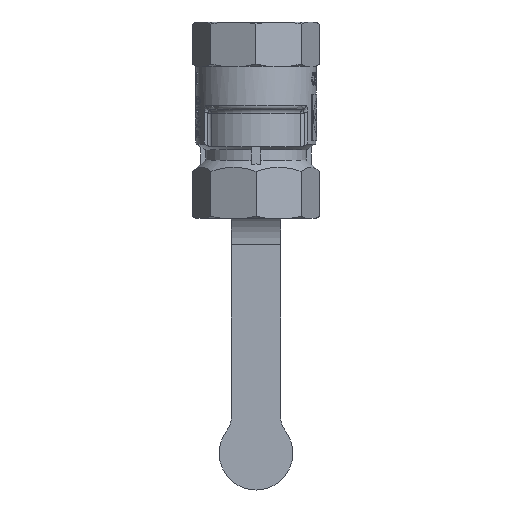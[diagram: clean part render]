
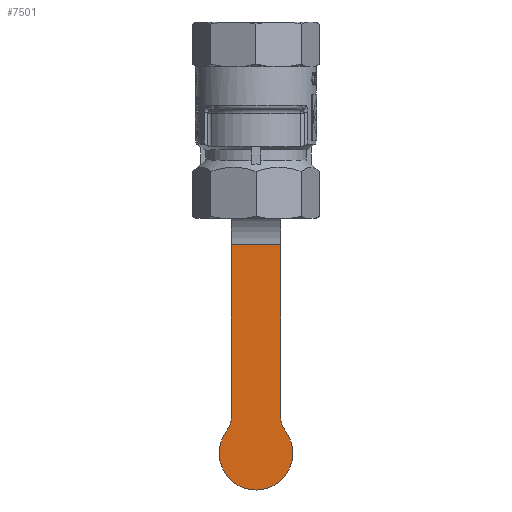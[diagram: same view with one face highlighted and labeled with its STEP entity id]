
A CAD part, front view. The second image highlights one B-rep face of the part: STEP entity #7501.
In plain terms, the highlighted planar face has unit normal (0, -1, 0).
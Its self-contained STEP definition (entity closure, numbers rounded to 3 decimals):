
#387=PLANE('',#8088);
#875=FACE_OUTER_BOUND('',#1342,.T.);
#1342=EDGE_LOOP('',(#6573,#6574,#6575,#6576,#6577,#6578));
#1880=LINE('',#19548,#2391);
#1890=LINE('',#19581,#2401);
#1891=LINE('',#19583,#2402);
#2391=VECTOR('',#9559,10.);
#2401=VECTOR('',#9591,10.);
#2402=VECTOR('',#9594,10.);
#2934=CIRCLE('',#8080,5.);
#2935=CIRCLE('',#8082,7.5);
#2936=CIRCLE('',#8084,5.);
#3577=VERTEX_POINT('',#19545);
#3578=VERTEX_POINT('',#19547);
#3583=VERTEX_POINT('',#19559);
#3584=VERTEX_POINT('',#19563);
#3585=VERTEX_POINT('',#19567);
#3590=VERTEX_POINT('',#19579);
#4609=EDGE_CURVE('',#3578,#3577,#1880,.T.);
#4616=EDGE_CURVE('',#3583,#3577,#2934,.T.);
#4618=EDGE_CURVE('',#3584,#3583,#2935,.T.);
#4620=EDGE_CURVE('',#3585,#3584,#2936,.T.);
#4626=EDGE_CURVE('',#3585,#3590,#1890,.T.);
#4627=EDGE_CURVE('',#3578,#3590,#1891,.T.);
#6573=ORIENTED_EDGE('',*,*,#4626,.T.);
#6574=ORIENTED_EDGE('',*,*,#4627,.F.);
#6575=ORIENTED_EDGE('',*,*,#4609,.T.);
#6576=ORIENTED_EDGE('',*,*,#4616,.F.);
#6577=ORIENTED_EDGE('',*,*,#4618,.F.);
#6578=ORIENTED_EDGE('',*,*,#4620,.F.);
#7501=ADVANCED_FACE('',(#875),#387,.T.);
#8080=AXIS2_PLACEMENT_3D('',#19561,#9570,#9571);
#8082=AXIS2_PLACEMENT_3D('',#19565,#9575,#9576);
#8084=AXIS2_PLACEMENT_3D('',#19569,#9580,#9581);
#8088=AXIS2_PLACEMENT_3D('',#19582,#9592,#9593);
#9559=DIRECTION('',(0.,0.,-1.));
#9570=DIRECTION('center_axis',(0.,-1.,0.));
#9571=DIRECTION('ref_axis',(0.949,0.,-0.316));
#9575=DIRECTION('center_axis',(0.,1.,0.));
#9576=DIRECTION('ref_axis',(1.,0.,0.));
#9580=DIRECTION('center_axis',(0.,-1.,0.));
#9581=DIRECTION('ref_axis',(-0.949,0.,-0.316));
#9591=DIRECTION('',(0.,0.,1.));
#9592=DIRECTION('center_axis',(0.,-1.,0.));
#9593=DIRECTION('ref_axis',(0.,0.,-1.));
#9594=DIRECTION('',(1.,0.,0.));
#19545=CARTESIAN_POINT('',(-5.,31.,-60.91));
#19547=CARTESIAN_POINT('',(-5.,31.,-25.971));
#19548=CARTESIAN_POINT('',(-5.,31.,-50.883));
#19559=CARTESIAN_POINT('',(-6.,31.,-63.91));
#19561=CARTESIAN_POINT('Origin',(-10.,31.,-60.91));
#19563=CARTESIAN_POINT('',(6.,31.,-63.91));
#19565=CARTESIAN_POINT('Origin',(0.,31.,
-68.41));
#19567=CARTESIAN_POINT('',(5.,31.,-60.91));
#19569=CARTESIAN_POINT('Origin',(10.,31.,-60.91));
#19579=CARTESIAN_POINT('',(5.,31.,-25.971));
#19581=CARTESIAN_POINT('',(5.,31.,-17.557));
#19582=CARTESIAN_POINT('Origin',(0.,31.,-25.971));
#19583=CARTESIAN_POINT('',(0.,31.,-25.971));
